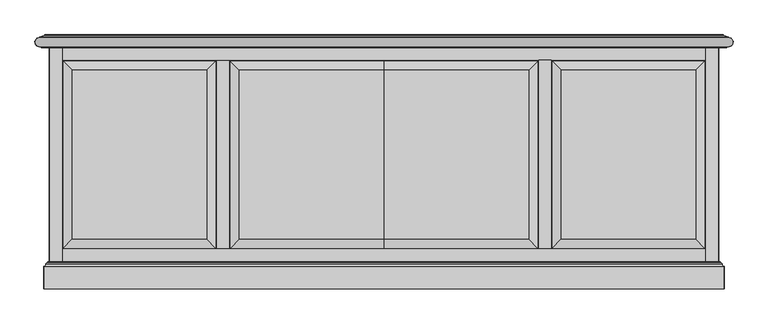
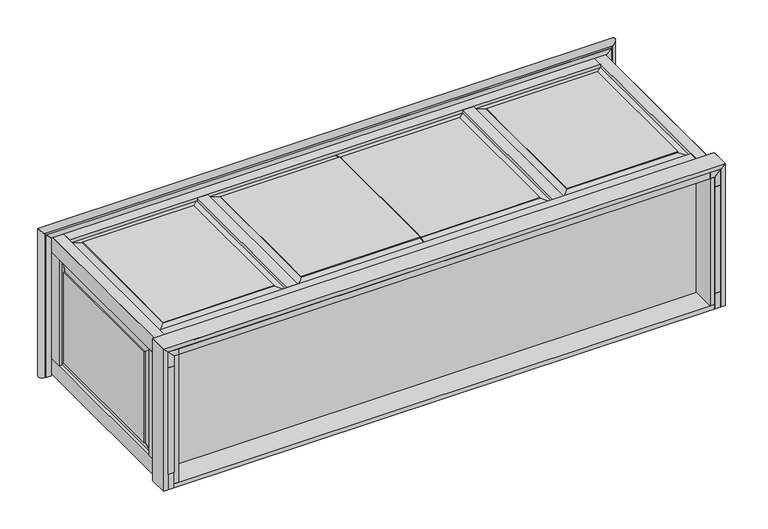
"""IFC4 building model written with IfcOpenShell, lengths in millimetres: proxy geometry, CAMBRIDGE^CREDENZA 3_26x96 4 DOOR W VENT-PARTS SOLID."""

from ifc_helpers import new_model, si_unit, frame, origin, place, context, project, spatial, polyline, circle_curve, ellipse_curve, outline, extrude, faceted_brep, source, transform, mapped, element, save
from ifc_brep_helpers import plane_surface, cylinder_surface, revolved_surface, advanced_brep


def generic_models_f6060e17(model_context):
    return source(origin(), model_context, "Body", "SolidModel", [
        extrude(outline(polyline([(31.75, -857.25), (6.35, -857.25), (6.35, -717.55), (31.75, -717.55), (31.75, -857.25)])), frame((0.0, 0.0, -546.1), z_axis=(0.0, 0.0, 1.0), x_axis=(1.0, 0.0, 0.0)), (0.0, 0.0, 1.0), 476.25),
        extrude(outline(polyline([(0.0, 2298.7), (-25.4, 2298.7), (-25.4, 2317.75), (0.0, 2343.15), (0.0, 2298.7)])), frame((0.0, -857.25, 0.0), z_axis=(0.0, 1.0, 0.0), x_axis=(0.0, 0.0, 1.0)), (0.0, 0.0, 1.0), 857.25),
        extrude(outline(polyline([(-25.4, 31.75), (-25.4, 50.8), (0.0, 50.8), (0.0, 6.35), (-25.4, 31.75)])), frame((0.0, -857.25, 0.0), z_axis=(0.0, 1.0, 0.0), x_axis=(0.0, 0.0, 1.0)), (0.0, 0.0, 1.0), 857.25),
        faceted_brep([(1679.575, -92.075, -3.175), (1711.325, -60.325, -11.6823869), (1176.3375, -60.325, -11.6823869), (1176.3375, -92.075, -3.175), (1679.575, -92.075, 0.0), (1176.3375, -92.075, 0.0), (1679.575, -682.625, -3.175), (1711.325, -714.375, -11.6823869), (1679.575, -682.625, 0.0), (1176.3375, -682.625, -3.175), (1176.3375, -714.375, -11.6823869), (1176.3375, -682.625, 0.0), (1711.325, -60.325, -19.05), (1176.3375, -60.325, -19.05), (1711.325, -714.375, -19.05), (1176.3375, -714.375, -19.05)], [[[0, 1, 2, 3]], [[4, 0, 3, 5]], [[6, 7, 1, 0]], [[8, 6, 0, 4]], [[9, 10, 7, 6]], [[11, 9, 6, 8]], [[2, 1, 12, 13]], [[1, 7, 14, 12]], [[5, 3, 2, 13, 15, 10, 9, 11]], [[7, 10, 15, 14]], [[4, 5, 11, 8]], [[12, 14, 15, 13]]]),
        extrude(outline(polyline([(2343.15, -857.25), (2317.75, -857.25), (2317.75, -717.55), (2343.15, -717.55), (2343.15, -857.25)])), frame((0.0, 0.0, -546.1), z_axis=(0.0, 0.0, 1.0), x_axis=(1.0, 0.0, 0.0)), (0.0, 0.0, 1.0), 476.25),
        extrude(outline(polyline([(0.0, 6.35), (-69.85, 6.35), (-69.85, 31.75), (-25.4, 31.75), (0.0, 6.35)])), frame((0.0, -857.25, 0.0), z_axis=(0.0, 1.0, 0.0), x_axis=(0.0, 0.0, 1.0)), (0.0, 0.0, 1.0), 857.25),
        faceted_brep([(2263.775, -682.625, -3.175), (2295.525, -714.375, -11.6823869), (2295.525, -60.325, -11.6823869), (2263.775, -92.075, -3.175), (2263.775, -682.625, 0.0), (2263.775, -92.075, 0.0), (1793.875, -682.625, -3.175), (1762.125, -714.375, -11.6823869), (1793.875, -682.625, 0.0), (1793.875, -92.075, -3.175), (1762.125, -60.325, -11.6823869), (1793.875, -92.075, 0.0), (2295.525, -60.325, -19.05), (1762.125, -60.325, -19.05), (2295.525, -714.375, -19.05), (1762.125, -714.375, -19.05)], [[[0, 1, 2, 3]], [[4, 0, 3, 5]], [[6, 7, 1, 0]], [[8, 6, 0, 4]], [[9, 10, 7, 6]], [[11, 9, 6, 8]], [[3, 2, 10, 9]], [[5, 3, 9, 11]], [[10, 2, 12, 13]], [[2, 1, 14, 12]], [[7, 10, 13, 15]], [[1, 7, 15, 14]], [[4, 5, 11, 8]], [[14, 15, 13, 12]]]),
        extrude(outline(polyline([(2343.15, -857.25), (2317.75, -857.25), (2317.75, 0.0), (2343.15, 0.0), (2343.15, -857.25)])), frame((0.0, 0.0, -615.95), z_axis=(0.0, 0.0, 1.0), x_axis=(1.0, 0.0, 0.0)), (0.0, 0.0, 1.0), 69.85),
        faceted_brep([(555.625, -682.625, 0.0), (555.625, -682.625, -3.175), (555.625, -92.075, -3.175), (555.625, -92.075, 0.0), (587.375, -714.375, -11.6823869), (587.375, -60.325, -11.6823869), (85.725, -682.625, 0.0), (85.725, -682.625, -3.175), (53.975, -714.375, -11.6823869), (85.725, -92.075, 0.0), (85.725, -92.075, -3.175), (53.975, -60.325, -11.6823869), (587.375, -60.325, -19.05), (53.975, -60.325, -19.05), (587.375, -714.375, -19.05), (53.975, -714.375, -19.05)], [[[0, 1, 2, 3]], [[1, 4, 5, 2]], [[6, 7, 1, 0]], [[7, 8, 4, 1]], [[9, 10, 7, 6]], [[10, 11, 8, 7]], [[2, 5, 11, 10]], [[3, 2, 10, 9]], [[11, 5, 12, 13]], [[5, 4, 14, 12]], [[8, 11, 13, 15]], [[4, 8, 15, 14]], [[0, 3, 9, 6]], [[14, 15, 13, 12]]]),
        extrude(outline(polyline([(0.0, 2343.15), (-25.4, 2317.75), (-69.85, 2317.75), (-69.85, 2343.15), (0.0, 2343.15)])), frame((0.0, -857.25, 0.0), z_axis=(0.0, 1.0, 0.0), x_axis=(0.0, 0.0, 1.0)), (0.0, 0.0, 1.0), 857.25),
        extrude(outline(polyline([(2298.7, -857.25), (50.8, -857.25), (50.8, -717.55), (2298.7, -717.55), (2298.7, -857.25)])), frame((0.0, 0.0, -25.4), z_axis=(0.0, 0.0, 1.0), x_axis=(1.0, 0.0, 0.0)), (0.0, 0.0, 1.0), 25.4),
        extrude(outline(polyline([(1714.5, -57.15), (1758.95, -57.15), (1758.95, -717.55), (1714.5, -717.55), (1714.5, -57.15)])), frame((0.0, 0.0, -25.4), z_axis=(0.0, 0.0, 1.0), x_axis=(1.0, 0.0, 0.0)), (0.0, 0.0, 1.0), 25.4),
        extrude(outline(polyline([(31.75, 0.0), (50.8, 0.0), (50.8, -857.25), (31.75, -857.25), (31.75, 0.0)])), frame((0.0, 0.0, -596.9), z_axis=(0.0, 0.0, 1.0), x_axis=(1.0, 0.0, 0.0)), (0.0, 0.0, 1.0), 571.5),
        advanced_brep(
        [(2362.2, -857.25, 19.05), (-12.7, -857.25, 19.05), (6.35, -857.25, 0.0), (2343.15, -857.25, 0.0), (2362.2, -777.875, 19.05), (-12.7, -777.875, 19.05), (6.35, -762.0, 0.0), (2343.15, -762.0, 0.0), (2355.85, -771.525, 12.7), (-6.35, -771.525, 12.7), (2349.5, -765.175, 6.35), (0.0, -765.175, 6.35), (2349.5, -762.0, 6.35), (0.0, -762.0, 6.35)],
        [
            (0, 1),
            (1, 2),
            (2, 3),
            (3, 0),
            (0, 4),
            (4, 5),
            (5, 1),
            (2, 6),
            (6, 7),
            (7, 3),
            (4, 8, ellipse_curve(frame((2362.2, -771.525, 19.05), z_axis=(0.7071067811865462, 0.0, -0.7071067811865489), x_axis=(-0.7071067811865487, 0.0, -0.7071067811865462)), 8.9802561, 6.35)),
            (8, 9),
            (9, 5, ellipse_curve(frame((-12.7, -771.525, 19.05), z_axis=(-0.7071067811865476, 0.0, -0.7071067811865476), x_axis=(-0.7071067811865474, 0.0, 0.7071067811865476)), 8.9802561, 6.35)),
            (8, 10, ellipse_curve(frame((2349.5, -771.525, 6.35), z_axis=(-0.7071067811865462, 0.0, 0.7071067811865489), x_axis=(-0.7071067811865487, 0.0, -0.7071067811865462)), 8.9802561, 6.35)),
            (10, 11),
            (11, 9, ellipse_curve(frame((0.0, -771.525, 6.35), z_axis=(0.7071067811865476, 0.0, 0.7071067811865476), x_axis=(-0.7071067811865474, 0.0, 0.7071067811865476)), 8.9802561, 6.35)),
            (10, 12),
            (12, 13),
            (13, 11),
            (12, 7),
            (6, 13),
        ],
        [
            plane_surface(frame((1174.75, -857.25, 9.525), z_axis=(0.0, -1.0, 0.0), x_axis=(0.0, 0.0, -1.0))),
            plane_surface(frame((-12.7, -857.25, 19.05), z_axis=(0.0, 0.0, 1.0), x_axis=(1.0, 0.0, 0.0))),
            plane_surface(frame((2343.15, -857.25, 0.0), z_axis=(0.0, 0.0, -1.0), x_axis=(-1.0, 0.0, 0.0))),
            revolved_surface(polyline([(-19.04999998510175, -771.525, 25.4), (2368.5499999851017, -771.525, 25.4)]), (2362.2, -771.525, 19.05), (-1.0, 0.0, 0.0)),
            cylinder_surface(frame((2349.5, -771.525, 6.35), z_axis=(-1.0, 0.0, 0.0), x_axis=(0.0, 0.0, 1.0)), 6.35),
            plane_surface(frame((2349.5, -762.0, 6.35), z_axis=(0.0, 0.0, 1.0), x_axis=(0.0, -1.0, 0.0))),
            plane_surface(frame((1174.75, -762.0, 9.525), z_axis=(0.0, 1.0, 0.0), x_axis=(0.0, 0.0, 1.0))),
            plane_surface(frame((2362.2, -857.25, 19.05), z_axis=(0.7071067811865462, 0.0, -0.7071067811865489), x_axis=(-0.7071067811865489, 0.0, -0.7071067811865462))),
            plane_surface(frame((6.35, -857.25, 0.0), z_axis=(-0.7071067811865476, 0.0, -0.7071067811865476), x_axis=(-0.7071067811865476, 0.0, 0.7071067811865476))),
        ],
        [
            (0, [[1, 2, 3, 4]]),
            (1, [[-1, 5, 6, 7]]),
            (2, [[-3, 8, 9, 10]]),
            (3, [[11, 12, 13, -6]]),
            (4, [[14, 15, 16, -12]]),
            (5, [[17, 18, 19, -15]]),
            (6, [[-18, 20, -9, 21]]),
            (7, [[-17, -14, -11, -5, -4, -10, -20]]),
            (8, [[-19, -21, -8, -2, -7, -13, -16]]),
        ],
    ),
        advanced_brep(
        [(2362.2, -777.875, -615.95), (2355.85, -771.525, -615.95), (2355.85, -771.525, 12.7), (2362.2, -777.875, 19.05), (2349.5, -765.175, -615.95), (2349.5, -765.175, 6.35), (2349.5, -762.0, -615.95), (2349.5, -762.0, 6.35), (2343.15, -762.0, 0.0), (2343.15, -857.25, 0.0), (2362.2, -857.25, 19.05), (2343.15, -762.0, -615.95), (2343.15, -857.25, -615.95), (2362.2, -857.25, -615.95)],
        [
            (0, 1, circle_curve(frame((2362.2, -771.525, -615.95), z_axis=(0.0, 0.0, -1.0), x_axis=(0.0, -1.0, 0.0)), 6.35)),
            (1, 2),
            (2, 3, ellipse_curve(frame((2362.2, -771.525, 19.05), z_axis=(-0.7071067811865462, 0.0, 0.7071067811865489), x_axis=(0.707106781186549, 0.0, 0.707106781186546)), 8.9802561, 6.35)),
            (3, 0),
            (1, 4, circle_curve(frame((2349.5, -771.525, -615.95), z_axis=(0.0, 0.0, 1.0), x_axis=(0.0, -1.0, 0.0)), 6.35)),
            (4, 5),
            (5, 2, ellipse_curve(frame((2349.5, -771.525, 6.35), z_axis=(0.7071067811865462, 0.0, -0.7071067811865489), x_axis=(0.707106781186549, 0.0, 0.707106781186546)), 8.9802561, 6.35)),
            (4, 6),
            (6, 7),
            (7, 5),
            (7, 8),
            (8, 9),
            (9, 10),
            (10, 3),
            (6, 11),
            (11, 8),
            (12, 9),
            (11, 12),
            (0, 13),
            (13, 12),
            (10, 13),
        ],
        [
            revolved_surface(polyline([(2362.2, -777.875, 25.399999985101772), (2362.2, -777.875, -615.95)]), (2362.2, -771.525, -615.95), (0.0, 0.0, 1.0)),
            cylinder_surface(frame((2349.5, -771.525, -615.95), z_axis=(0.0, 0.0, 1.0), x_axis=(0.0, -1.0, 0.0)), 6.35),
            plane_surface(frame((2349.5, -762.0, -615.95), z_axis=(1.0, 0.0, 0.0), x_axis=(0.0, -1.0, 0.0))),
            plane_surface(frame((2343.15, -857.25, 0.0), z_axis=(-0.7071067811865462, 0.0, 0.7071067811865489), x_axis=(0.7071067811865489, 0.0, 0.7071067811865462))),
            plane_surface(frame((2352.675, -762.0, -298.45), z_axis=(0.0, 1.0, 0.0), x_axis=(0.0, 0.0, 1.0))),
            plane_surface(frame((2343.15, -857.25, -615.95), z_axis=(-1.0, 0.0, 0.0), x_axis=(0.0, 0.0, 1.0))),
            plane_surface(frame((2362.2, -857.25, -615.95), z_axis=(0.0, 0.0, -1.0), x_axis=(-1.0, 0.0, 0.0))),
            plane_surface(frame((2362.2, -857.25, 19.05), z_axis=(1.0, 0.0, 0.0), x_axis=(0.0, 0.0, -1.0))),
            plane_surface(frame((2352.675, -857.25, -298.45), z_axis=(0.0, -1.0, 0.0), x_axis=(0.0, 0.0, -1.0))),
        ],
        [
            (0, [[1, 2, 3, 4]]),
            (1, [[5, 6, 7, -2]]),
            (2, [[8, 9, 10, -6]]),
            (3, [[-3, -7, -10, 11, 12, 13, 14]]),
            (4, [[-9, 15, 16, -11]]),
            (5, [[17, -12, -16, 18]]),
            (6, [[-1, 19, 20, -18, -15, -8, -5]]),
            (7, [[-4, -14, 21, -19]]),
            (8, [[-21, -13, -17, -20]]),
        ],
    ),
        extrude(outline(polyline([(6.35, 0.0), (31.75, 0.0), (31.75, -57.15), (6.35, -57.15), (6.35, 0.0)])), frame((0.0, 0.0, -546.1), z_axis=(0.0, 0.0, 1.0), x_axis=(1.0, 0.0, 0.0)), (0.0, 0.0, 1.0), 476.25),
        extrude(outline(polyline([(50.8, -717.55), (2298.7, -717.55), (2298.7, -755.65), (50.8, -755.65), (50.8, -717.55)])), frame((0.0, 0.0, -596.9), z_axis=(0.0, 0.0, 1.0), x_axis=(1.0, 0.0, 0.0)), (0.0, 0.0, 1.0), 571.5),
        faceted_brep([(2343.15, -682.625, -511.175), (2339.975, -682.625, -511.175), (2339.975, -92.075, -511.175), (2343.15, -92.075, -511.175), (2331.4676131, -714.375, -542.925), (2331.4676131, -60.325, -542.925), (2324.1, -714.375, -542.925), (2324.1, -60.325, -542.925), (2343.15, -682.625, -104.775), (2339.975, -682.625, -104.775), (2331.4676131, -714.375, -73.025), (2324.1, -714.375, -73.025), (2324.1, -57.15, -546.1), (2324.1, -57.15, -69.85), (2324.1, -717.55, -69.85), (2324.1, -717.55, -546.1), (2324.1, -60.325, -73.025), (2343.15, -92.075, -104.775), (2339.975, -92.075, -104.775), (2331.4676131, -60.325, -73.025), (2317.75, -717.55, -546.1), (2317.75, -57.15, -546.1), (2317.75, -717.55, -69.85), (2317.75, -57.15, -69.85)], [[[0, 1, 2, 3]], [[1, 4, 5, 2]], [[4, 6, 7, 5]], [[8, 9, 1, 0]], [[9, 10, 4, 1]], [[10, 11, 6, 4]], [[12, 13, 14, 15], [11, 16, 7, 6]], [[17, 18, 9, 8]], [[18, 19, 10, 9]], [[19, 16, 11, 10]], [[3, 2, 18, 17]], [[2, 5, 19, 18]], [[5, 7, 16, 19]], [[12, 15, 20, 21]], [[15, 14, 22, 20]], [[14, 13, 23, 22]], [[13, 12, 21, 23]], [[0, 3, 17, 8]], [[20, 22, 23, 21]]]),
        faceted_brep([(6.35, -682.625, -104.775), (9.525, -682.625, -104.775), (9.525, -92.075, -104.775), (6.35, -92.075, -104.775), (18.0323869, -714.375, -73.025), (18.0323869, -60.325, -73.025), (25.4, -714.375, -73.025), (25.4, -60.325, -73.025), (6.35, -682.625, -511.175), (9.525, -682.625, -511.175), (18.0323869, -714.375, -542.925), (25.4, -714.375, -542.925), (25.4, -57.15, -69.85), (25.4, -57.15, -546.1), (25.4, -717.55, -546.1), (25.4, -717.55, -69.85), (25.4, -60.325, -542.925), (6.35, -92.075, -511.175), (9.525, -92.075, -511.175), (18.0323869, -60.325, -542.925), (31.75, -717.55, -69.85), (31.75, -57.15, -69.85), (31.75, -717.55, -546.1), (31.75, -57.15, -546.1)], [[[0, 1, 2, 3]], [[1, 4, 5, 2]], [[4, 6, 7, 5]], [[8, 9, 1, 0]], [[9, 10, 4, 1]], [[10, 11, 6, 4]], [[12, 13, 14, 15], [11, 16, 7, 6]], [[17, 18, 9, 8]], [[18, 19, 10, 9]], [[19, 16, 11, 10]], [[3, 2, 18, 17]], [[2, 5, 19, 18]], [[5, 7, 16, 19]], [[12, 15, 20, 21]], [[15, 14, 22, 20]], [[14, 13, 23, 22]], [[13, 12, 21, 23]], [[0, 3, 17, 8]], [[20, 22, 23, 21]]]),
        advanced_brep(
        [(-27.4410714, -9.5412197, 27.4410714), (-28.575, 22.1682311, 28.575), (-28.575, 22.1682311, -615.95), (-27.4410714, -9.5412197, -615.95), (-28.575, 23.7557311, 28.575), (-28.575, 23.7557311, -615.95), (-13.7031721, 29.1686338, 13.7031721), (-13.7031721, 29.1686338, -615.95), (-10.5028814, 31.75, 10.5028814), (-10.5028814, 31.75, -615.95), (-21.4882387, -12.7, 21.4882387), (-21.4882387, -12.7, -615.95), (0.0, -12.7, -615.95), (0.0, -12.7, 0.0), (0.0, 31.75, -615.95), (0.0, 31.75, 0.0)],
        [
            (0, 1, ellipse_curve(frame((-28.575, 6.2932311, 28.575), z_axis=(-0.7071067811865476, 0.0, -0.7071067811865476), x_axis=(0.7071067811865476, 0.0, -0.7071067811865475)), 22.4506403, 15.875)),
            (1, 2),
            (2, 3, circle_curve(frame((-28.575, 6.2932311, -615.95), z_axis=(0.0, 0.0, 1.0), x_axis=(-1.0, 0.0, 0.0)), 15.875)),
            (3, 0),
            (1, 4),
            (4, 5),
            (5, 2),
            (4, 6),
            (6, 7),
            (7, 5),
            (6, 8, ellipse_curve(frame((-15.875, 35.1356819, 15.875), z_axis=(0.7071067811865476, 0.0, 0.7071067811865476), x_axis=(0.7071067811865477, 0.0, -0.7071067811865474)), 8.9802561, 6.35)),
            (8, 9),
            (9, 7, circle_curve(frame((-15.875, 35.1356819, -615.95), z_axis=(0.0, 0.0, -1.0), x_axis=(1.0, 0.0, 0.0)), 6.35)),
            (10, 0, ellipse_curve(frame((-26.9875, -15.875, 26.9875), z_axis=(0.7071067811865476, 0.0, 0.7071067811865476), x_axis=(0.7071067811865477, 0.0, -0.7071067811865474)), 8.9802561, 6.35)),
            (3, 11, circle_curve(frame((-26.9875, -15.875, -615.95), z_axis=(0.0, 0.0, -1.0), x_axis=(1.0, 0.0, 0.0)), 6.35)),
            (11, 10),
            (11, 12),
            (12, 13),
            (13, 10),
            (9, 14),
            (14, 12),
            (13, 15),
            (15, 8),
            (14, 15),
        ],
        [
            cylinder_surface(frame((-28.575, 6.2932311, 28.575), z_axis=(0.0, 0.0, -1.0), x_axis=(-1.0, 0.0, 0.0)), 15.875),
            plane_surface(frame((-28.575, 23.7557311, 28.575), z_axis=(-1.0, 0.0, 0.0), x_axis=(0.0, -1.0, 0.0))),
            plane_surface(frame((-13.7031721, 29.1686338, 13.7031721), z_axis=(-0.3420201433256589, 0.939692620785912, 0.0), x_axis=(-0.6847910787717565, -0.24924356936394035, 0.6847910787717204))),
            revolved_surface(polyline([(-9.525, 35.1356819, -615.95), (-9.525, 35.1356819, 22.224999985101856)]), (-15.875, 35.1356819, 15.875), (0.0, 0.0, -1.0)),
            revolved_surface(polyline([(-20.637500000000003, -15.875, -615.95), (-20.637500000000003, -15.875, 33.33749998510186)]), (-26.9875, -15.875, 26.9875), (0.0, 0.0, -1.0)),
            plane_surface(frame((-22.225, -12.7, -285.75), z_axis=(0.0, -1.0, 0.0), x_axis=(0.0, 0.0, -1.0))),
            plane_surface(frame((-44.45, 31.75, -615.95), z_axis=(0.0, 0.0, -1.0), x_axis=(1.0, 0.0, 0.0))),
            plane_surface(frame((0.0, 31.75, 0.0), z_axis=(0.7071067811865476, 0.0, 0.7071067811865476), x_axis=(-0.7071067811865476, 0.0, 0.7071067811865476))),
            plane_surface(frame((0.0, 31.75, -615.95), z_axis=(1.0, 0.0, 0.0), x_axis=(0.0, 0.0, 1.0))),
            plane_surface(frame((-22.225, 31.75, -285.75), z_axis=(0.0, 1.0, 0.0), x_axis=(0.0, 0.0, 1.0))),
        ],
        [
            (0, [[1, 2, 3, 4]]),
            (1, [[5, 6, 7, -2]]),
            (2, [[8, 9, 10, -6]]),
            (3, [[11, 12, 13, -9]]),
            (4, [[14, -4, 15, 16]]),
            (5, [[-16, 17, 18, 19]]),
            (6, [[-15, -3, -7, -10, -13, 20, 21, -17]]),
            (7, [[-14, -19, 22, 23, -11, -8, -5, -1]]),
            (8, [[24, -22, -18, -21]]),
            (9, [[-12, -23, -24, -20]]),
        ],
    ),
        extrude(outline(polyline([(2317.75, 0.0), (2343.15, 0.0), (2343.15, -57.15), (2317.75, -57.15), (2317.75, 0.0)])), frame((0.0, 0.0, -546.1), z_axis=(0.0, 0.0, 1.0), x_axis=(1.0, 0.0, 0.0)), (0.0, 0.0, 1.0), 476.25),
        extrude(outline(polyline([(523.875, -857.25), (117.475, -857.25), (117.475, -806.45), (523.875, -806.45), (523.875, -857.25)])), frame((0.0, 0.0, 15.875), z_axis=(0.0, 0.0, 1.0), x_axis=(1.0, 0.0, 0.0)), (0.0, 0.0, 1.0), 3.175),
        extrude(outline(polyline([(50.8, 0.0), (2298.7, 0.0), (2298.7, -57.15), (50.8, -57.15), (50.8, 0.0)])), frame((0.0, 0.0, -25.4), z_axis=(0.0, 0.0, 1.0), x_axis=(1.0, 0.0, 0.0)), (0.0, 0.0, 1.0), 25.4),
        extrude(outline(polyline([(590.55, -57.15), (635.0, -57.15), (635.0, -717.55), (590.55, -717.55), (590.55, -57.15)])), frame((0.0, 0.0, -25.4), z_axis=(0.0, 0.0, 1.0), x_axis=(1.0, 0.0, 0.0)), (0.0, 0.0, 1.0), 25.4),
        advanced_brep(
        [(2376.9410714, -9.5412197, 27.4410714), (2378.075, 22.1682311, 28.575), (-28.575, 22.1682311, 28.575), (-27.4410714, -9.5412197, 27.4410714), (2378.075, 23.7557311, 28.575), (-28.575, 23.7557311, 28.575), (2363.2031721, 29.1686338, 13.7031721), (-13.7031721, 29.1686338, 13.7031721), (2360.0028814, 31.75, 10.5028814), (-10.5028814, 31.75, 10.5028814), (2370.9882387, -12.7, 21.4882387), (-21.4882387, -12.7, 21.4882387), (2349.5, -12.7, 0.0), (2349.5, 31.75, 0.0), (0.0, -12.7, 0.0), (0.0, 31.75, 0.0)],
        [
            (0, 1, ellipse_curve(frame((2378.075, 6.2932311, 28.575), z_axis=(-0.7071067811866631, 0.0, 0.707106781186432), x_axis=(-0.7071067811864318, 0.0, -0.7071067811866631)), 22.4506403, 15.875)),
            (1, 2),
            (2, 3, ellipse_curve(frame((-28.575, 6.2932311, 28.575), z_axis=(0.7071067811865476, 0.0, 0.7071067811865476), x_axis=(-0.7071067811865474, 0.0, 0.7071067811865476)), 22.4506403, 15.875)),
            (3, 0),
            (1, 4),
            (4, 5),
            (5, 2),
            (4, 6),
            (6, 7),
            (7, 5),
            (6, 8, ellipse_curve(frame((2365.375, 35.1356819, 15.875), z_axis=(0.7071067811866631, 0.0, -0.707106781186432), x_axis=(-0.7071067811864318, 0.0, -0.7071067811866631)), 8.9802561, 6.35)),
            (8, 9),
            (9, 7, ellipse_curve(frame((-15.875, 35.1356819, 15.875), z_axis=(-0.7071067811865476, 0.0, -0.7071067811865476), x_axis=(-0.7071067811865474, 0.0, 0.7071067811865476)), 8.9802561, 6.35)),
            (10, 0, ellipse_curve(frame((2376.4875, -15.875, 26.9875), z_axis=(0.7071067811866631, 0.0, -0.707106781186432), x_axis=(-0.7071067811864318, 0.0, -0.7071067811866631)), 8.9802561, 6.35)),
            (3, 11, ellipse_curve(frame((-26.9875, -15.875, 26.9875), z_axis=(-0.7071067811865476, 0.0, -0.7071067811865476), x_axis=(-0.7071067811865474, 0.0, 0.7071067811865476)), 8.9802561, 6.35)),
            (11, 10),
            (10, 12),
            (12, 13),
            (13, 8),
            (11, 14),
            (14, 12),
            (15, 13),
            (14, 15),
            (9, 15),
        ],
        [
            cylinder_surface(frame((2378.075, 6.2932311, 28.575), z_axis=(-1.0, 0.0, 0.0), x_axis=(0.0, 0.0, 1.0)), 15.875),
            plane_surface(frame((2378.075, 23.7557311, 28.575), z_axis=(0.0, 0.0, 1.0), x_axis=(0.0, -1.0, 0.0))),
            plane_surface(frame((2363.2031721, 29.1686338, 13.7031721), z_axis=(0.0, 0.939692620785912, 0.3420201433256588), x_axis=(0.6847910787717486, -0.24924356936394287, 0.6847910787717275))),
            revolved_surface(polyline([(-22.22499998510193, 35.1356819, 9.525), (2371.724999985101, 35.1356819, 9.525)]), (2365.375, 35.1356819, 15.875), (-1.0, 0.0, 0.0)),
            revolved_surface(polyline([(-33.33749998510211, -15.875, 20.637500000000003), (2382.837499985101, -15.875, 20.637500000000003)]), (2376.4875, -15.875, 26.9875), (-1.0, 0.0, 0.0)),
            plane_surface(frame((2349.5, 31.75, 0.0), z_axis=(0.7071067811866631, 0.0, -0.707106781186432), x_axis=(0.707106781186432, 0.0, 0.7071067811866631))),
            plane_surface(frame((1174.75, -12.7, 22.225), z_axis=(0.0, -1.0, 0.0), x_axis=(0.0, 0.0, -1.0))),
            plane_surface(frame((0.0, 31.75, 0.0), z_axis=(0.0, 0.0, -1.0), x_axis=(1.0, 0.0, 0.0))),
            plane_surface(frame((-44.45, 31.75, 44.45), z_axis=(-0.7071067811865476, 0.0, -0.7071067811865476), x_axis=(0.7071067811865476, 0.0, -0.7071067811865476))),
            plane_surface(frame((1174.75, 31.75, 22.225), z_axis=(0.0, 1.0, 0.0), x_axis=(0.0, 0.0, 1.0))),
        ],
        [
            (0, [[1, 2, 3, 4]]),
            (1, [[5, 6, 7, -2]]),
            (2, [[8, 9, 10, -6]]),
            (3, [[11, 12, 13, -9]]),
            (4, [[14, -4, 15, 16]]),
            (5, [[-11, -8, -5, -1, -14, 17, 18, 19]]),
            (6, [[-16, 20, 21, -17]]),
            (7, [[22, -18, -21, 23]]),
            (8, [[-13, 24, -23, -20, -15, -3, -7, -10]]),
            (9, [[-12, -19, -22, -24]]),
        ],
    ),
        extrude(outline(polyline([(2317.75, -857.25), (31.75, -857.25), (31.75, 0.0), (2317.75, 0.0), (2317.75, -857.25)])), frame((0.0, 0.0, -615.95), z_axis=(0.0, 0.0, 1.0), x_axis=(1.0, 0.0, 0.0)), (0.0, 0.0, 1.0), 19.05),
        extrude(outline(polyline([(2349.5, 0.0), (0.0, 0.0), (0.0, 31.75), (2349.5, 31.75), (2349.5, 0.0)])), frame((0.0, 0.0, -615.95), z_axis=(0.0, 0.0, 1.0), x_axis=(1.0, 0.0, 0.0)), (0.0, 0.0, 1.0), 615.95),
        advanced_brep(
        [(-12.7, -777.875, 19.05), (-6.35, -771.525, 12.7), (-6.35, -771.525, -615.95), (-12.7, -777.875, -615.95), (0.0, -765.175, 6.35), (0.0, -765.175, -615.95), (0.0, -762.0, 6.35), (0.0, -762.0, -615.95), (6.35, -762.0, 0.0), (6.35, -762.0, -615.95), (-12.7, -857.25, 19.05), (6.35, -857.25, 0.0), (6.35, -857.25, -615.95), (-12.7, -857.25, -615.95)],
        [
            (0, 1, ellipse_curve(frame((-12.7, -771.525, 19.05), z_axis=(0.7071067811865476, 0.0, 0.7071067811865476), x_axis=(0.7071067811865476, 0.0, -0.7071067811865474)), 8.9802561, 6.35)),
            (1, 2),
            (2, 3, circle_curve(frame((-12.7, -771.525, -615.95), z_axis=(0.0, 0.0, -1.0), x_axis=(-1.0, 0.0, 0.0)), 6.35)),
            (3, 0),
            (1, 4, ellipse_curve(frame((0.0, -771.525, 6.35), z_axis=(-0.7071067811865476, 0.0, -0.7071067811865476), x_axis=(0.7071067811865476, 0.0, -0.7071067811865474)), 8.9802561, 6.35)),
            (4, 5),
            (5, 2, circle_curve(frame((0.0, -771.525, -615.95), z_axis=(0.0, 0.0, 1.0), x_axis=(-1.0, 0.0, 0.0)), 6.35)),
            (4, 6),
            (6, 7),
            (7, 5),
            (6, 8),
            (8, 9),
            (9, 7),
            (0, 10),
            (10, 11),
            (11, 8),
            (9, 12),
            (12, 13),
            (13, 3),
            (11, 12),
            (13, 10),
        ],
        [
            revolved_surface(polyline([(-19.049999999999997, -771.525, -615.95), (-19.049999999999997, -771.525, 25.399999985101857)]), (-12.7, -771.525, 19.05), (0.0, 0.0, -1.0)),
            cylinder_surface(frame((0.0, -771.525, 6.35), z_axis=(0.0, 0.0, -1.0), x_axis=(-1.0, 0.0, 0.0)), 6.35),
            plane_surface(frame((0.0, -762.0, 6.35), z_axis=(-1.0, 0.0, 0.0), x_axis=(0.0, -1.0, 0.0))),
            plane_surface(frame((-3.175, -762.0, -298.45), z_axis=(0.0, 1.0, 0.0), x_axis=(0.0, 0.0, 1.0))),
            plane_surface(frame((-12.7, -857.25, 19.05), z_axis=(0.7071067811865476, 0.0, 0.7071067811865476), x_axis=(0.7071067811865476, 0.0, -0.7071067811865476))),
            plane_surface(frame((6.35, -857.25, -615.95), z_axis=(0.0, 0.0, -1.0), x_axis=(-1.0, 0.0, 0.0))),
            plane_surface(frame((6.35, -857.25, 0.0), z_axis=(1.0, 0.0, 0.0), x_axis=(0.0, 0.0, -1.0))),
            plane_surface(frame((-12.7, -857.25, -615.95), z_axis=(-1.0, 0.0, 0.0), x_axis=(0.0, 0.0, 1.0))),
            plane_surface(frame((-3.175, -857.25, -298.45), z_axis=(0.0, -1.0, 0.0), x_axis=(0.0, 0.0, -1.0))),
        ],
        [
            (0, [[1, 2, 3, 4]]),
            (1, [[5, 6, 7, -2]]),
            (2, [[8, 9, 10, -6]]),
            (3, [[-9, 11, 12, 13]]),
            (4, [[-8, -5, -1, 14, 15, 16, -11]]),
            (5, [[-10, -13, 17, 18, 19, -3, -7]]),
            (6, [[20, -17, -12, -16]]),
            (7, [[-4, -19, 21, -14]]),
            (8, [[-21, -18, -20, -15]]),
        ],
    ),
        extrude(outline(polyline([(31.75, -857.25), (6.35, -857.25), (6.35, 0.0), (31.75, 0.0), (31.75, -857.25)])), frame((0.0, 0.0, -615.95), z_axis=(0.0, 0.0, 1.0), x_axis=(1.0, 0.0, 0.0)), (0.0, 0.0, 1.0), 69.85),
        advanced_brep(
        [(2376.9410714, -9.5412197, -615.95), (2378.075, 22.1682311, -615.95), (2378.075, 22.1682311, 28.575), (2376.9410714, -9.5412197, 27.4410714), (2378.075, 23.7557311, -615.95), (2378.075, 23.7557311, 28.575), (2363.2031721, 29.1686338, -615.95), (2363.2031721, 29.1686338, 13.7031721), (2360.0028814, 31.75, -615.95), (2360.0028814, 31.75, 10.5028814), (2370.9882387, -12.7, -615.95), (2370.9882387, -12.7, 21.4882387), (2349.5, -12.7, -615.95), (2349.5, 31.75, -615.95), (2349.5, -12.7, 0.0), (2349.5, 31.75, 0.0)],
        [
            (0, 1, circle_curve(frame((2378.075, 6.2932311, -615.95), z_axis=(0.0, 0.0, 1.0), x_axis=(0.0, -1.0, 0.0)), 15.875)),
            (1, 2),
            (2, 3, ellipse_curve(frame((2378.075, 6.2932311, 28.575), z_axis=(0.7071067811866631, 0.0, -0.707106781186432), x_axis=(0.7071067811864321, 0.0, 0.7071067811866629)), 22.4506403, 15.875)),
            (3, 0),
            (1, 4),
            (4, 5),
            (5, 2),
            (4, 6),
            (6, 7),
            (7, 5),
            (6, 8, circle_curve(frame((2365.375, 35.1356819, -615.95), z_axis=(0.0, 0.0, -1.0), x_axis=(-0.3420201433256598, -0.9396926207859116, 0.0)), 6.35)),
            (8, 9),
            (9, 7, ellipse_curve(frame((2365.375, 35.1356819, 15.875), z_axis=(-0.7071067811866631, 0.0, 0.707106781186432), x_axis=(0.7071067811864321, 0.0, 0.7071067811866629)), 8.9802561, 6.35)),
            (10, 0, circle_curve(frame((2376.4875, -15.875, -615.95), z_axis=(0.0, 0.0, -1.0), x_axis=(-0.8660254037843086, 0.5000000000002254, 0.0)), 6.35)),
            (3, 11, ellipse_curve(frame((2376.4875, -15.875, 26.9875), z_axis=(-0.7071067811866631, 0.0, 0.707106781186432), x_axis=(0.7071067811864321, 0.0, 0.7071067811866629)), 8.9802561, 6.35)),
            (11, 10),
            (10, 12),
            (12, 13),
            (13, 8),
            (11, 14),
            (14, 12),
            (15, 13),
            (14, 15),
            (9, 15),
        ],
        [
            cylinder_surface(frame((2378.075, 6.2932311, -615.95), z_axis=(0.0, 0.0, 1.0), x_axis=(0.0, -1.0, 0.0)), 15.875),
            plane_surface(frame((2378.075, 23.7557311, -615.95), z_axis=(1.0, 0.0, 0.0), x_axis=(0.0, -1.0, 0.0))),
            plane_surface(frame((2363.2031721, 29.1686338, -615.95), z_axis=(0.3420201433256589, 0.939692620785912, 0.0), x_axis=(0.939692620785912, -0.3420201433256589, 0.0))),
            revolved_surface(polyline([(2363.203172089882, 29.168633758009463, 22.22499998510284), (2363.203172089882, 29.168633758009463, -615.95)]), (2365.375, 35.1356819, -615.95), (0.0, 0.0, 1.0)),
            revolved_surface(polyline([(2370.98823868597, -12.69999999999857, 33.337499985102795), (2370.98823868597, -12.69999999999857, -615.95)]), (2376.4875, -15.875, -615.95), (0.0, 0.0, 1.0)),
            plane_surface(frame((2349.5, 31.75, -615.95), z_axis=(0.0, 0.0, -1.0), x_axis=(1.0, 0.0, 0.0))),
            plane_surface(frame((2371.725, -12.7, -285.75), z_axis=(0.0, -1.0, 0.0), x_axis=(0.0, 0.0, -1.0))),
            plane_surface(frame((2349.5, 31.75, 0.0), z_axis=(-1.0, 0.0, 0.0), x_axis=(0.0, 0.0, -1.0))),
            plane_surface(frame((2393.95, 31.75, 44.45), z_axis=(-0.7071067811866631, 0.0, 0.707106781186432), x_axis=(-0.707106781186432, 0.0, -0.7071067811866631))),
            plane_surface(frame((2371.725, 31.75, -285.75), z_axis=(0.0, 1.0, 0.0), x_axis=(0.0, 0.0, 1.0))),
        ],
        [
            (0, [[1, 2, 3, 4]]),
            (1, [[5, 6, 7, -2]]),
            (2, [[8, 9, 10, -6]]),
            (3, [[11, 12, 13, -9]]),
            (4, [[14, -4, 15, 16]]),
            (5, [[-11, -8, -5, -1, -14, 17, 18, 19]]),
            (6, [[-16, 20, 21, -17]]),
            (7, [[22, -18, -21, 23]]),
            (8, [[-13, 24, -23, -20, -15, -3, -7, -10]]),
            (9, [[-12, -19, -22, -24]]),
        ],
    ),
        extrude(outline(polyline([(2298.7, 0.0), (2317.75, 0.0), (2317.75, -857.25), (2298.7, -857.25), (2298.7, 0.0)])), frame((0.0, 0.0, -596.9), z_axis=(0.0, 0.0, 1.0), x_axis=(1.0, 0.0, 0.0)), (0.0, 0.0, 1.0), 571.5),
        faceted_brep([(669.925, -92.075, -3.175), (669.925, -92.075, 0.0), (1173.1625, -92.075, 0.0), (1173.1625, -92.075, -3.175), (638.175, -60.325, -11.6823869), (1173.1625, -60.325, -11.6823869), (669.925, -682.625, -3.175), (669.925, -682.625, 0.0), (638.175, -714.375, -11.6823869), (1173.1625, -682.625, -3.175), (1173.1625, -682.625, 0.0), (1173.1625, -714.375, -11.6823869), (1173.1625, -714.375, -19.05), (1173.1625, -60.325, -19.05), (638.175, -60.325, -19.05), (638.175, -714.375, -19.05)], [[[0, 1, 2, 3]], [[4, 0, 3, 5]], [[6, 7, 1, 0]], [[8, 6, 0, 4]], [[9, 10, 7, 6]], [[11, 9, 6, 8]], [[2, 1, 7, 10]], [[5, 3, 2, 10, 9, 11, 12, 13]], [[4, 5, 13, 14]], [[8, 4, 14, 15]], [[11, 8, 15, 12]], [[12, 15, 14, 13]]]),
    ])


if __name__ == "__main__":
    model = new_model("IFC4")
    model_context = context("Model", 3, world=origin())
    ifc_project = project(units=[si_unit("LENGTHUNIT", "METRE", prefix="MILLI")], contexts=[model_context])
    site = spatial("IfcSite", under=ifc_project)
    building = spatial("IfcBuilding", under=site)
    placement = place(None, origin())
    generic_models_shape = generic_models_f6060e17(model_context)
    element("IfcBuildingElementProxy", 1, Name="CAMBRIDGE^CREDENZA 3_26x96 4 DOOR W VENT-PARTS SOLID", ObjectType="CAMBRIDGE^CREDENZA 3_26x96 4 DOOR W VENT-PARTS SOLID", at=placement, inside=building, context=model_context, shape_type="MappedRepresentation", body=[
        mapped(generic_models_shape, transform((0.0, 0.0, 0.0), x_axis=(1.0, 0.0, 0.0), y_axis=(0.0, 1.0, 0.0), z_axis=(0.0, 0.0, 1.0))),
    ])
    save(model, "model.ifc")
